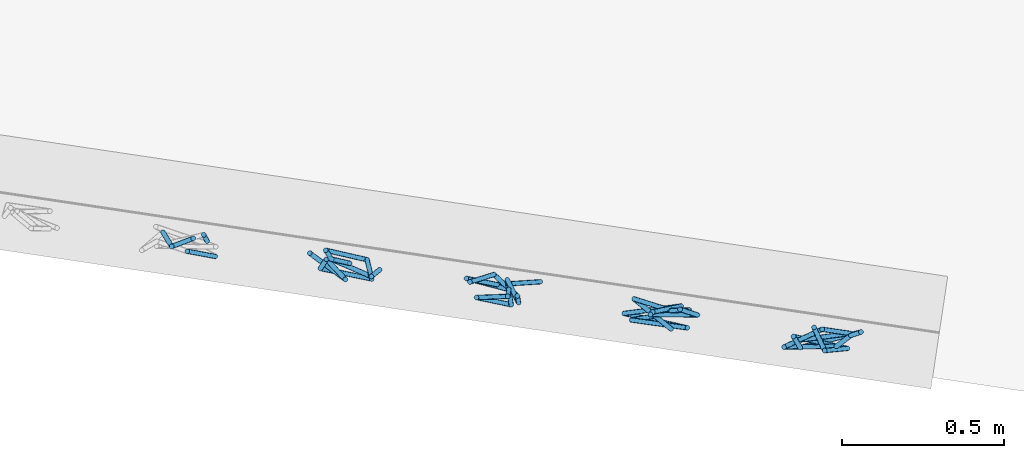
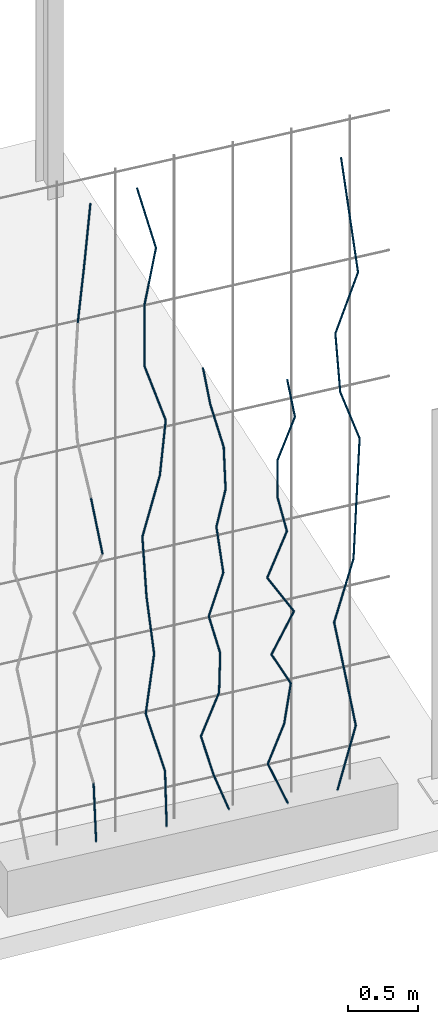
# One storey, part 125 of 142: 48 members, 1 element without a shape of its own.
"""IFC4 building model written with IfcOpenShell, lengths in metres."""

from ifc_helpers import new_model, si_unit, direction, frame, origin_with_axes, place, context, subcontext, project, spatial, circle, extrude, material, material_profile, profile_set, profile_usage, type_object, element, aggregate, save


model = new_model("IFC4")

# Units and contexts
model_context = context("Model", 3, precision=1e-05, world=origin_with_axes(), true_north=direction((0.0, 1.0)))
body_context = subcontext(model_context, "Body", "Model", "MODEL_VIEW")
ifc_project = project(units=[si_unit("LENGTHUNIT", "METRE"), si_unit("AREAUNIT", "SQUARE_METRE"), si_unit("VOLUMEUNIT", "CUBIC_METRE")], contexts=[model_context])

# Site, building, storey
site_placement = place(None, origin_with_axes())
site = spatial("IfcSite", under=ifc_project, at=site_placement, Name="Lares · Rua das Mercês · artigo 4771")
building_placement = place(site_placement, frame((15.0, 9.7, 14.65), z_axis=(0.0, 0.0, 1.0), x_axis=(0.989015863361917, -0.147809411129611, 0.0)))
building = spatial("IfcBuilding", under=site, at=building_placement, Name="Casa Sobreposta")
storey_placement = place(building_placement, origin_with_axes())
storey = spatial("IfcBuildingStorey", under=building, at=storey_placement, Name="00 · Habitação e estacionamento", Elevation=14.65)

# Assembly, members
assembly_placement = place(storey_placement, origin_with_axes())
assembly = element("IfcElementAssembly", 1, at=assembly_placement, inside=storey, Name="Fachada sul e pátio · estrutura e trepadeiras", ObjectType="LIVING_SHADE_TRELLIS", PredefinedType="USERDEFINED")
ifc_material = material(Name="Ramos de trepadeiras", Category="wood")
ifc_material_profile = material_profile(ifc_material, circle(Radius=0.0075))
ifc_profile_set = profile_set([ifc_material_profile], Name="D0.015")
ifc_profile_usage_1 = profile_usage(ifc_profile_set)
member_type = type_object("IfcMemberType", Name="D0.015 / vine_wood", PredefinedType="NOTDEFINED", material=ifc_profile_set)
member_1_placement = place(assembly_placement, frame((29.2283838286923, -1.66457891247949, 0.35), z_axis=(-0.0252439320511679, 0.0344689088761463, 0.999086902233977), x_axis=(0.999681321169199, 0.000870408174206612, 0.0252289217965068)))
member_1 = element("IfcMember", 2, at=member_1_placement, type_object=member_type, material=ifc_profile_usage_1, Name="Trepadeiras · ramo", context=body_context, shape_type="SweptSolid", body=[
    extrude(circle(Radius=0.0075), origin_with_axes(), (0.0, 0.0, 1.0), 0.508202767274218),
])
ifc_profile_usage_2 = profile_usage(ifc_profile_set)
member_2_placement = place(assembly_placement, frame((29.2600635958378, -1.70751102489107, 2.88869364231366), z_axis=(-0.169784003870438, 0.00616562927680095, 0.985462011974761), x_axis=(0.0362906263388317, 0.999341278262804, 0.0)))
member_2 = element("IfcMember", 3, at=member_2_placement, type_object=member_type, material=ifc_profile_usage_2, Name="Trepadeiras · ramo", context=body_context, shape_type="SweptSolid", body=[
    extrude(circle(Radius=0.0075), origin_with_axes(), (0.0, 0.0, 1.0), 0.515229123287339),
])
ifc_profile_usage_3 = profile_usage(ifc_profile_set)
member_3_placement = place(assembly_placement, frame((29.0901985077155, -1.6576110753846, 4.91964855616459), z_axis=(0.0644049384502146, -0.0771905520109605, 0.994933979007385), x_axis=(-0.767832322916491, -0.640650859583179, 0.0)))
member_3 = element("IfcMember", 4, at=member_3_placement, type_object=member_type, material=ifc_profile_usage_3, Name="Trepadeiras · ramo", context=body_context, shape_type="SweptSolid", body=[
    extrude(circle(Radius=0.0075), origin_with_axes(), (0.0, 0.0, 1.0), 0.510324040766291),
])
ifc_profile_usage_4 = profile_usage(ifc_profile_set)
member_4_placement = place(assembly_placement, frame((29.1230658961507, -1.69700326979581, 5.42738728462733), z_axis=(0.120473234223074, 0.0669973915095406, 0.990453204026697), x_axis=(0.486018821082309, -0.873948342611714, 0.0)))
member_4 = element("IfcMember", 5, at=member_4_placement, type_object=member_type, material=ifc_profile_usage_4, Name="Trepadeiras · ramo", context=body_context, shape_type="SweptSolid", body=[
    extrude(circle(Radius=0.0075), origin_with_axes(), (0.0, 0.0, 1.0), 0.512632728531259),
])
ifc_profile_usage_5 = profile_usage(ifc_profile_set)
member_5_placement = place(assembly_placement, frame((29.7668433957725, -1.67324367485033, 0.35), z_axis=(-0.0428066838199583, -0.0470108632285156, 0.997976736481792), x_axis=(-0.739395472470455, 0.673271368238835, 0.0)))
member_5 = element("IfcMember", 6, at=member_5_placement, type_object=member_type, material=ifc_profile_usage_5, Name="Trepadeiras · ramo", context=body_context, shape_type="SweptSolid", body=[
    extrude(circle(Radius=0.0075), origin_with_axes(), (0.0, 0.0, 1.0), 0.512141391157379),
])
ifc_profile_usage_6 = profile_usage(ifc_profile_set)
member_6_placement = place(assembly_placement, frame((29.7449203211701, -1.69731988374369, 0.861105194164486), z_axis=(-0.254221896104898, 0.0667168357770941, 0.96484200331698), x_axis=(0.253839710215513, 0.967246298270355, 0.0)))
member_6 = element("IfcMember", 7, at=member_6_placement, type_object=member_type, material=ifc_profile_usage_6, Name="Trepadeiras · ramo", context=body_context, shape_type="SweptSolid", body=[
    extrude(circle(Radius=0.0075), origin_with_axes(), (0.0, 0.0, 1.0), 0.529729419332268),
])
ifc_profile_usage_7 = profile_usage(ifc_profile_set)
member_7_placement = place(assembly_placement, frame((29.6102515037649, -1.66197801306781, 1.37221038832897), z_axis=(0.121962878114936, -0.00970701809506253, 0.992487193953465), x_axis=(-0.0793390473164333, -0.996847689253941, 0.0)))
member_7 = element("IfcMember", 8, at=member_7_placement, type_object=member_type, material=ifc_profile_usage_7, Name="Trepadeiras · ramo", context=body_context, shape_type="SweptSolid", body=[
    extrude(circle(Radius=0.0075), origin_with_axes(), (0.0, 0.0, 1.0), 0.514974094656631),
])
ifc_profile_usage_8 = profile_usage(ifc_profile_set)
member_8_placement = place(assembly_placement, frame((29.6730592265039, -1.66697687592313, 1.88331558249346), z_axis=(-0.11114571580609, 0.0078114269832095, 0.99377342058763), x_axis=(0.0701080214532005, 0.997539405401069, 9.67018947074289e-19)))
member_8 = element("IfcMember", 9, at=member_8_placement, type_object=member_type, material=ifc_profile_usage_8, Name="Trepadeiras · ramo", context=body_context, shape_type="SweptSolid", body=[
    extrude(circle(Radius=0.0075), origin_with_axes(), (0.0, 0.0, 1.0), 0.514307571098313),
])
ifc_profile_usage_9 = profile_usage(ifc_profile_set)
member_9_placement = place(assembly_placement, frame((29.6158961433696, -1.66295939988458, 2.39442077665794), z_axis=(-0.0428014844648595, 0.0480979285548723, 0.99792515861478), x_axis=(0.747040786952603, 0.664778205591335, 0.0)))
member_9 = element("IfcMember", 10, at=member_9_placement, type_object=member_type, material=ifc_profile_usage_9, Name="Trepadeiras · ramo", context=body_context, shape_type="SweptSolid", body=[
    extrude(circle(Radius=0.0075), origin_with_axes(), (0.0, 0.0, 1.0), 0.512167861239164),
])
ifc_profile_usage_10 = profile_usage(ifc_profile_set)
member_10_placement = place(assembly_placement, frame((29.5939745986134, -1.6383251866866, 2.90552597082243), z_axis=(0.247264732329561, -0.01922655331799, 0.968757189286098), x_axis=(-0.0775229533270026, -0.996990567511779, 0.0)))
member_10 = element("IfcMember", 11, at=member_10_placement, type_object=member_type, material=ifc_profile_usage_10, Name="Trepadeiras · ramo", context=body_context, shape_type="SweptSolid", body=[
    extrude(circle(Radius=0.0075), origin_with_axes(), (0.0, 0.0, 1.0), 0.52758854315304),
])
ifc_profile_usage_11 = profile_usage(ifc_profile_set)
member_11_placement = place(assembly_placement, frame((29.7244286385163, -1.64846889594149, 3.41663116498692), z_axis=(0.0440949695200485, -0.109390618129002, 0.993020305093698), x_axis=(-0.927483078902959, -0.373865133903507, 0.0)))
member_11 = element("IfcMember", 12, at=member_11_placement, type_object=member_type, material=ifc_profile_usage_11, Name="Trepadeiras · ramo", context=body_context, shape_type="SweptSolid", body=[
    extrude(circle(Radius=0.0075), origin_with_axes(), (0.0, 0.0, 1.0), 0.514697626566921),
])
ifc_profile_usage_12 = profile_usage(ifc_profile_set)
member_12_placement = place(assembly_placement, frame((29.7471242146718, -1.70477198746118, 3.9277363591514), z_axis=(-0.300432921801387, 0.0157623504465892, 0.953672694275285), x_axis=(0.0523933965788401, 0.998626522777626, 0.0)))
member_12 = element("IfcMember", 13, at=member_12_placement, type_object=member_type, material=ifc_profile_usage_12, Name="Trepadeiras · ramo", context=body_context, shape_type="SweptSolid", body=[
    extrude(circle(Radius=0.0075), origin_with_axes(), (0.0, 0.0, 1.0), 0.535933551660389),
])
ifc_profile_usage_13 = profile_usage(ifc_profile_set)
member_13_placement = place(assembly_placement, frame((29.5861121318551, -1.69632441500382, 4.43884155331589), z_axis=(0.0273818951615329, 0.0604129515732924, 0.997797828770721), x_axis=(0.910811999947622, -0.412821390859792, 0.0)))
member_13 = element("IfcMember", 14, at=member_13_placement, type_object=member_type, material=ifc_profile_usage_13, Name="Trepadeiras · ramo", context=body_context, shape_type="SweptSolid", body=[
    extrude(circle(Radius=0.0075), origin_with_axes(), (0.0, 0.0, 1.0), 0.51223321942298),
])
ifc_profile_usage_14 = profile_usage(ifc_profile_set)
member_14_placement = place(assembly_placement, frame((29.6001380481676, -1.66537889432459, 4.94994674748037), z_axis=(0.129038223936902, -0.101811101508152, 0.986399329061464), x_axis=(-0.619414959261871, -0.785063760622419, 0.0)))
member_14 = element("IfcMember", 15, at=member_14_placement, type_object=member_type, material=ifc_profile_usage_14, Name="Trepadeiras · ramo", context=body_context, shape_type="SweptSolid", body=[
    extrude(circle(Radius=0.0075), origin_with_axes(), (0.0, 0.0, 1.0), 0.518152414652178),
])
ifc_profile_usage_15 = profile_usage(ifc_profile_set)
member_15_placement = place(assembly_placement, frame((29.6669995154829, -1.71813256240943, 5.46105194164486), z_axis=(-0.227719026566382, 0.120705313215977, 0.966216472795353), x_axis=(0.468336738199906, 0.883550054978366, 0.0)))
member_15 = element("IfcMember", 16, at=member_15_placement, type_object=member_type, material=ifc_profile_usage_15, Name="Trepadeiras · ramo", context=body_context, shape_type="SweptSolid", body=[
    extrude(circle(Radius=0.0075), origin_with_axes(), (0.0, 0.0, 1.0), 0.528975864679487),
])
ifc_profile_usage_16 = profile_usage(ifc_profile_set)
member_16_placement = place(assembly_placement, frame((30.261618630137, -1.63679709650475, 0.35), z_axis=(-0.341987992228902, -0.073852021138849, 0.936797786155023), x_axis=(-0.211083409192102, 0.977468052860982, 0.0)))
member_16 = element("IfcMember", 17, at=member_16_placement, type_object=member_type, material=ifc_profile_usage_16, Name="Trepadeiras · ramo", context=body_context, shape_type="SweptSolid", body=[
    extrude(circle(Radius=0.0075), origin_with_axes(), (0.0, 0.0, 1.0), 0.381675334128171),
])
ifc_profile_usage_17 = profile_usage(ifc_profile_set)
member_17_placement = place(assembly_placement, frame((30.1310902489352, -1.66498459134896, 0.707552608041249), z_axis=(-0.258918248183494, 0.0129089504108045, 0.96581297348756), x_axis=(0.0497953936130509, 0.998759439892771, 0.0)))
member_17 = element("IfcMember", 18, at=member_17_placement, type_object=member_type, material=ifc_profile_usage_17, Name="Trepadeiras · ramo", context=body_context, shape_type="SweptSolid", body=[
    extrude(circle(Radius=0.0075), origin_with_axes(), (0.0, 0.0, 1.0), 0.370208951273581),
])
ifc_profile_usage_18 = profile_usage(ifc_profile_set)
member_18_placement = place(assembly_placement, frame((30.0352363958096, -1.66020558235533, 1.0651052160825), z_axis=(0.350865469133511, -0.0374713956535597, 0.935675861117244), x_axis=(-0.106193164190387, -0.994345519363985, 0.0)))
member_18 = element("IfcMember", 19, at=member_18_placement, type_object=member_type, material=ifc_profile_usage_18, Name="Trepadeiras · ramo", context=body_context, shape_type="SweptSolid", body=[
    extrude(circle(Radius=0.0075), origin_with_axes(), (0.0, 0.0, 1.0), 0.382132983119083),
])
ifc_profile_usage_19 = profile_usage(ifc_profile_set)
member_19_placement = place(assembly_placement, frame((30.1693136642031, -1.67452463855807, 1.42265782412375), z_axis=(0.000383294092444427, -0.0596842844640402, 0.998217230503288), x_axis=(-0.999979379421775, -0.00642189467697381, 0.0)))
member_19 = element("IfcMember", 20, at=member_19_placement, type_object=member_type, material=ifc_profile_usage_19, Name="Trepadeiras · ramo", context=body_context, shape_type="SweptSolid", body=[
    extrude(circle(Radius=0.0075), origin_with_axes(), (0.0, 0.0, 1.0), 0.358191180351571),
])
ifc_profile_usage_20 = profile_usage(ifc_profile_set)
member_20_placement = place(assembly_placement, frame((30.1694509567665, -1.69590302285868, 1.78021043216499), z_axis=(-0.256144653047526, -0.0477982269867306, 0.965455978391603), x_axis=(-0.183439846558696, 0.98303093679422, 0.0)))
member_20 = element("IfcMember", 21, at=member_20_placement, type_object=member_type, material=ifc_profile_usage_20, Name="Trepadeiras · ramo", context=body_context, shape_type="SweptSolid", body=[
    extrude(circle(Radius=0.0075), origin_with_axes(), (0.0, 0.0, 1.0), 0.370345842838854),
])
ifc_profile_usage_21 = profile_usage(ifc_profile_set)
member_21_placement = place(assembly_placement, frame((30.0745888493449, -1.71360489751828, 2.13776304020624), z_axis=(0.291697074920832, -0.0167889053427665, 0.956363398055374), x_axis=(-0.0574608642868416, -0.998347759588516, 0.0)))
member_21 = element("IfcMember", 22, at=member_21_placement, type_object=member_type, material=ifc_profile_usage_21, Name="Trepadeiras · ramo", context=body_context, shape_type="SweptSolid", body=[
    extrude(circle(Radius=0.0075), origin_with_axes(), (0.0, 0.0, 1.0), 0.373866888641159),
])
ifc_profile_usage_22 = profile_usage(ifc_profile_set)
member_22_placement = place(assembly_placement, frame((30.1836447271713, -1.71988171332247, 2.49531564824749), z_axis=(-0.064696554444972, 0.202860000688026, 0.977068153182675), x_axis=(0.95272176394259, 0.303844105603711, 7.96021462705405e-18)))
member_22 = element("IfcMember", 23, at=member_22_placement, type_object=member_type, material=ifc_profile_usage_22, Name="Trepadeiras · ramo", context=body_context, shape_type="SweptSolid", body=[
    extrude(circle(Radius=0.0075), origin_with_axes(), (0.0, 0.0, 1.0), 0.365944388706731),
])
ifc_profile_usage_23 = profile_usage(ifc_profile_set)
member_23_placement = place(assembly_placement, frame((30.1599693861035, -1.64564623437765, 2.85286825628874), z_axis=(0.123292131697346, -0.175486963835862, 0.976730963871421), x_axis=(-0.818242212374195, -0.574873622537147, 0.0)))
member_23 = element("IfcMember", 24, at=member_23_placement, type_object=member_type, material=ifc_profile_usage_23, Name="Trepadeiras · ramo", context=body_context, shape_type="SweptSolid", body=[
    extrude(circle(Radius=0.0075), origin_with_axes(), (0.0, 0.0, 1.0), 0.366070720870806),
])
ifc_profile_usage_24 = profile_usage(ifc_profile_set)
member_24_placement = place(assembly_placement, frame((30.2051030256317, -1.70988687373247, 3.21042086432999), z_axis=(-0.0181704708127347, 0.055018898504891, 0.998319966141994), x_axis=(0.949555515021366, 0.313598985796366, 0.0)))
member_24 = element("IfcMember", 25, at=member_24_placement, type_object=member_type, material=ifc_profile_usage_24, Name="Trepadeiras · ramo", context=body_context, shape_type="SweptSolid", body=[
    extrude(circle(Radius=0.0075), origin_with_axes(), (0.0, 0.0, 1.0), 0.358154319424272),
])
ifc_profile_usage_25 = profile_usage(ifc_profile_set)
member_25_placement = place(assembly_placement, frame((30.1985951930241, -1.69018161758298, 3.56797347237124), z_axis=(-0.219940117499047, 0.14657027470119, 0.964439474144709), x_axis=(0.554552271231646, 0.83214889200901, 0.0)))
member_25 = element("IfcMember", 26, at=member_25_placement, type_object=member_type, material=ifc_profile_usage_25, Name="Trepadeiras · ramo", context=body_context, shape_type="SweptSolid", body=[
    extrude(circle(Radius=0.0075), origin_with_axes(), (0.0, 0.0, 1.0), 0.370736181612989),
])
ifc_profile_usage_26 = profile_usage(ifc_profile_set)
member_26_placement = place(assembly_placement, frame((30.117055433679, -1.63584271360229, 3.92552608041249), z_axis=(-0.189986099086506, -0.0918125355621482, 0.977484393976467), x_axis=(-0.435114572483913, 0.90037509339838, 0.0)))
member_26 = element("IfcMember", 27, at=member_26_placement, type_object=member_type, material=ifc_profile_usage_26, Name="Trepadeiras · ramo", context=body_context, shape_type="SweptSolid", body=[
    extrude(circle(Radius=0.0075), origin_with_axes(), (0.0, 0.0, 1.0), 0.365788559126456),
])
ifc_profile_usage_27 = profile_usage(ifc_profile_set)
member_27_placement = place(assembly_placement, frame((30.6816189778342, -1.72103625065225, 0.35), z_axis=(-0.348194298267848, 0.206069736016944, 0.914492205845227), x_axis=(0.509312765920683, 0.860581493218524, 0.0)))
member_27 = element("IfcMember", 28, at=member_27_placement, type_object=member_type, material=ifc_profile_usage_27, Name="Trepadeiras · ramo", context=body_context, shape_type="SweptSolid", body=[
    extrude(circle(Radius=0.0075), origin_with_axes(), (0.0, 0.0, 1.0), 0.363374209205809),
])
ifc_profile_usage_28 = profile_usage(ifc_profile_set)
member_28_placement = place(assembly_placement, frame((30.5550941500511, -1.64615582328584, 0.682302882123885), z_axis=(0.33475661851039, -0.0529891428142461, 0.940813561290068), x_axis=(-0.156344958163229, -0.987702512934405, 0.0)))
member_28 = element("IfcMember", 29, at=member_28_placement, type_object=member_type, material=ifc_profile_usage_28, Name="Trepadeiras · ramo", context=body_context, shape_type="SweptSolid", body=[
    extrude(circle(Radius=0.0075), origin_with_axes(), (0.0, 0.0, 1.0), 0.353208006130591),
])
ifc_profile_usage_29 = profile_usage(ifc_profile_set)
member_29_placement = place(assembly_placement, frame((30.6733328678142, -1.66487201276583, 1.01460576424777), z_axis=(0.163555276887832, 0.0298620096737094, 0.986082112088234), x_axis=(0.179611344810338, -0.983737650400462, 0.0)))
member_29 = element("IfcMember", 30, at=member_29_placement, type_object=member_type, material=ifc_profile_usage_29, Name="Trepadeiras · ramo", context=body_context, shape_type="SweptSolid", body=[
    extrude(circle(Radius=0.0075), origin_with_axes(), (0.0, 0.0, 1.0), 0.336993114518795),
])
ifc_profile_usage_30 = profile_usage(ifc_profile_set)
member_30_placement = place(assembly_placement, frame((30.7284498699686, -1.6548087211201, 1.34690864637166), z_axis=(-0.452950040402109, -0.150341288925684, 0.87876831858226), x_axis=(-0.315016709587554, 0.949086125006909, 0.0)))
member_30 = element("IfcMember", 31, at=member_30_placement, type_object=member_type, material=ifc_profile_usage_30, Name="Trepadeiras · ramo", context=body_context, shape_type="SweptSolid", body=[
    extrude(circle(Radius=0.0075), origin_with_axes(), (0.0, 0.0, 1.0), 0.378146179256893),
])
ifc_profile_usage_31 = profile_usage(ifc_profile_set)
member_31_placement = place(assembly_placement, frame((30.5571685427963, -1.7116597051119, 1.67921152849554), z_axis=(0.462645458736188, 0.00382392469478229, 0.886535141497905), x_axis=(0.00826506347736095, -0.999965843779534, 0.0)))
member_31 = element("IfcMember", 32, at=member_31_placement, type_object=member_type, material=ifc_profile_usage_31, Name="Trepadeiras · ramo", context=body_context, shape_type="SweptSolid", body=[
    extrude(circle(Radius=0.0075), origin_with_axes(), (0.0, 0.0, 1.0), 0.37483328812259),
])
ifc_profile_usage_32 = profile_usage(ifc_profile_set)
member_32_placement = place(assembly_placement, frame((30.7305834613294, -1.71022637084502, 2.01151441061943), z_axis=(-0.514458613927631, 0.0391758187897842, 0.856619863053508), x_axis=(0.0759297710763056, 0.997113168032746, 0.0)))
member_32 = element("IfcMember", 33, at=member_32_placement, type_object=member_type, material=ifc_profile_usage_32, Name="Trepadeiras · ramo", context=body_context, shape_type="SweptSolid", body=[
    extrude(circle(Radius=0.0075), origin_with_axes(), (0.0, 0.0, 1.0), 0.387923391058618),
])
ifc_profile_usage_33 = profile_usage(ifc_profile_set)
member_33_placement = place(assembly_placement, frame((30.5310129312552, -1.69502915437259, 2.34381729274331), z_axis=(0.452918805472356, 0.129015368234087, 0.882167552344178), x_axis=(0.273955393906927, -0.961742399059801, 0.0)))
member_33 = element("IfcMember", 34, at=member_33_placement, type_object=member_type, material=ifc_profile_usage_33, Name="Trepadeiras · ramo", context=body_context, shape_type="SweptSolid", body=[
    extrude(circle(Radius=0.0075), origin_with_axes(), (0.0, 0.0, 1.0), 0.376689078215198),
])
ifc_profile_usage_34 = profile_usage(ifc_profile_set)
member_34_placement = place(assembly_placement, frame((30.7016224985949, -1.6464304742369, 2.6761201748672), z_axis=(-0.242328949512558, -0.0911697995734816, 0.96590100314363), x_axis=(-0.352127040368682, 0.935952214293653, 0.0)))
member_34 = element("IfcMember", 35, at=member_34_placement, type_object=member_type, material=ifc_profile_usage_34, Name="Trepadeiras · ramo", context=body_context, shape_type="SweptSolid", body=[
    extrude(circle(Radius=0.0075), origin_with_axes(), (0.0, 0.0, 1.0), 0.344034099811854),
])
ifc_profile_usage_35 = profile_usage(ifc_profile_set)
member_35_placement = place(assembly_placement, frame((30.618253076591, -1.67779599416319, 3.00842305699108), z_axis=(-0.018591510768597, -0.0255179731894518, 0.999501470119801), x_axis=(0.999827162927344, -0.000474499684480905, 0.0185854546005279)))
member_35 = element("IfcMember", 36, at=member_35_placement, type_object=member_type, material=ifc_profile_usage_35, Name="Trepadeiras · ramo", context=body_context, shape_type="SweptSolid", body=[
    extrude(circle(Radius=0.0075), origin_with_axes(), (0.0, 0.0, 1.0), 0.332468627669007),
])
ifc_profile_usage_36 = profile_usage(ifc_profile_set)
member_36_placement = place(assembly_placement, frame((30.6120719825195, -1.68627991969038, 3.34072593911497), z_axis=(0.395625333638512, 0.0554248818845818, 0.916738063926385), x_axis=(0.138739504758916, -0.990328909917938, 0.0)))
member_36 = element("IfcMember", 37, at=member_36_placement, type_object=member_type, material=ifc_profile_usage_36, Name="Trepadeiras · ramo", context=body_context, shape_type="SweptSolid", body=[
    extrude(circle(Radius=0.0075), origin_with_axes(), (0.0, 0.0, 1.0), 0.362484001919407),
])
ifc_profile_usage_37 = profile_usage(ifc_profile_set)
member_37_placement = place(assembly_placement, frame((30.7554798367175, -1.66618928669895, 3.67302882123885), z_axis=(-0.164939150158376, 0.0266499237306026, 0.985943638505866), x_axis=(0.159505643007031, 0.987197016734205, 0.0)))
member_37 = element("IfcMember", 38, at=member_37_placement, type_object=member_type, material=ifc_profile_usage_37, Name="Trepadeiras · ramo", context=body_context, shape_type="SweptSolid", body=[
    extrude(circle(Radius=0.0075), origin_with_axes(), (0.0, 0.0, 1.0), 0.337040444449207),
])
ifc_profile_usage_38 = profile_usage(ifc_profile_set)
member_38_placement = place(assembly_placement, frame((31.0679707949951, -1.69918109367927, 0.35), z_axis=(0.30526701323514, 0.0879293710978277, 0.948198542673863), x_axis=(0.276787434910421, -0.960931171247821, 0.0)))
member_38 = element("IfcMember", 39, at=member_38_placement, type_object=member_type, material=ifc_profile_usage_38, Name="Trepadeiras · ramo", context=body_context, shape_type="SweptSolid", body=[
    extrude(circle(Radius=0.0075), origin_with_axes(), (0.0, 0.0, 1.0), 0.525688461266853),
])
ifc_profile_usage_39 = profile_usage(ifc_profile_set)
member_39_placement = place(assembly_placement, frame((31.2284461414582, -1.65295763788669, 0.848457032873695), z_axis=(-0.171477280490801, -0.000359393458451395, 0.985188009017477), x_axis=(-0.00209586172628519, 0.9999978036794, 0.0)))
member_39 = element("IfcMember", 40, at=member_39_placement, type_object=member_type, material=ifc_profile_usage_39, Name="Trepadeiras · ramo", context=body_context, shape_type="SweptSolid", body=[
    extrude(circle(Radius=0.0075), origin_with_axes(), (0.0, 0.0, 1.0), 0.505951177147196),
])
ifc_profile_usage_40 = profile_usage(ifc_profile_set)
member_40_placement = place(assembly_placement, frame((31.1416870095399, -1.65313947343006, 1.34691406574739), z_axis=(-0.209536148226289, -0.138759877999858, 0.967905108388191), x_axis=(-0.552133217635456, 0.833755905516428, 1.33620471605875e-17)))
member_40 = element("IfcMember", 41, at=member_40_placement, type_object=member_type, material=ifc_profile_usage_40, Name="Trepadeiras · ramo", context=body_context, shape_type="SweptSolid", body=[
    extrude(circle(Radius=0.0075), origin_with_axes(), (0.0, 0.0, 1.0), 0.514985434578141),
])
ifc_profile_usage_41 = profile_usage(ifc_profile_set)
member_41_placement = place(assembly_placement, frame((31.0337789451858, -1.72459878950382, 1.84537109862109), z_axis=(0.303896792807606, 0.0499440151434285, 0.951394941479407), x_axis=(0.162169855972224, -0.986762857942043, 0.0)))
member_41 = element("IfcMember", 42, at=member_41_placement, type_object=member_type, material=ifc_profile_usage_41, Name="Trepadeiras · ramo", context=body_context, shape_type="SweptSolid", body=[
    extrude(circle(Radius=0.0075), origin_with_axes(), (0.0, 0.0, 1.0), 0.523922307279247),
])
ifc_profile_usage_42 = profile_usage(ifc_profile_set)
member_42_placement = place(assembly_placement, frame((31.1929972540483, -1.69843200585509, 2.34382813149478), z_axis=(0.0784318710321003, 0.0796506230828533, 0.993732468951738), x_axis=(0.71253711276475, -0.701634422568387, 0.0)))
member_42 = element("IfcMember", 43, at=member_42_placement, type_object=member_type, material=ifc_profile_usage_42, Name="Trepadeiras · ramo", context=body_context, shape_type="SweptSolid", body=[
    extrude(circle(Radius=0.0075), origin_with_axes(), (0.0, 0.0, 1.0), 0.501600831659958),
])
ifc_profile_usage_43 = profile_usage(ifc_profile_set)
member_43_placement = place(assembly_placement, frame((31.2323387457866, -1.6584791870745, 2.84228516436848), z_axis=(0.0579605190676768, 0.0295137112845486, 0.997882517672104), x_axis=(0.453762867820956, -0.891122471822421, 0.0)))
member_43 = element("IfcMember", 44, at=member_43_placement, type_object=member_type, material=ifc_profile_usage_43, Name="Trepadeiras · ramo", context=body_context, shape_type="SweptSolid", body=[
    extrude(circle(Radius=0.0075), origin_with_axes(), (0.0, 0.0, 1.0), 0.499514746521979),
])
ifc_profile_usage_44 = profile_usage(ifc_profile_set)
member_44_placement = place(assembly_placement, frame((31.261290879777, -1.64373665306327, 3.34074219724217), z_axis=(-0.333224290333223, -0.139669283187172, 0.932445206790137), x_axis=(-0.386562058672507, 0.922263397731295, 0.0)))
member_44 = element("IfcMember", 45, at=member_44_placement, type_object=member_type, material=ifc_profile_usage_44, Name="Trepadeiras · ramo", context=body_context, shape_type="SweptSolid", body=[
    extrude(circle(Radius=0.0075), origin_with_axes(), (0.0, 0.0, 1.0), 0.534569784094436),
])
ifc_profile_usage_45 = profile_usage(ifc_profile_set)
member_45_placement = place(assembly_placement, frame((31.0831592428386, -1.71839963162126, 3.83919923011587), z_axis=(-0.0511214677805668, 0.0604637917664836, 0.99686043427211), x_axis=(0.763636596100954, 0.645646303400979, 0.0)))
member_45 = element("IfcMember", 46, at=member_45_placement, type_object=member_type, material=ifc_profile_usage_45, Name="Trepadeiras · ramo", context=body_context, shape_type="SweptSolid", body=[
    extrude(circle(Radius=0.0075), origin_with_axes(), (0.0, 0.0, 1.0), 0.500026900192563),
])
ifc_profile_usage_46 = profile_usage(ifc_profile_set)
member_46_placement = place(assembly_placement, frame((31.0575971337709, -1.68816610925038, 4.33765626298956), z_axis=(0.321908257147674, -0.0224785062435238, 0.946503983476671), x_axis=(-0.0696592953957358, -0.997570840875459, 0.0)))
member_46 = element("IfcMember", 47, at=member_46_placement, type_object=member_type, material=ifc_profile_usage_46, Name="Trepadeiras · ramo", context=body_context, shape_type="SweptSolid", body=[
    extrude(circle(Radius=0.0075), origin_with_axes(), (0.0, 0.0, 1.0), 0.526629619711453),
])
ifc_profile_usage_47 = profile_usage(ifc_profile_set)
member_47_placement = place(assembly_placement, frame((31.2271235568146, -1.70000395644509, 4.83611329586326), z_axis=(-0.135139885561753, -0.033668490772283, 0.990254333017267), x_axis=(-0.241748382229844, 0.970338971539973, 0.0)))
member_47 = element("IfcMember", 48, at=member_47_placement, type_object=member_type, material=ifc_profile_usage_47, Name="Trepadeiras · ramo", context=body_context, shape_type="SweptSolid", body=[
    extrude(circle(Radius=0.0075), origin_with_axes(), (0.0, 0.0, 1.0), 0.503362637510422),
])
ifc_profile_usage_48 = profile_usage(ifc_profile_set)
member_48_placement = place(assembly_placement, frame((31.1590991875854, -1.71695141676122, 5.33457032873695), z_axis=(-0.0851428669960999, 0.130646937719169, 0.987766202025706), x_axis=(0.837791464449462, 0.545990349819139, 0.0)))
member_48 = element("IfcMember", 49, at=member_48_placement, type_object=member_type, material=ifc_profile_usage_48, Name="Trepadeiras · ramo", context=body_context, shape_type="SweptSolid", body=[
    extrude(circle(Radius=0.0075), origin_with_axes(), (0.0, 0.0, 1.0), 0.504630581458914),
])
aggregate(assembly, [member_1, member_2, member_3, member_4, member_5, member_6, member_7, member_8, member_9, member_10, member_11, member_12, member_13, member_14, member_15, member_16, member_17, member_18, member_19, member_20, member_21, member_22, member_23, member_24, member_25, member_26, member_27, member_28, member_29, member_30, member_31, member_32, member_33, member_34, member_35, member_36, member_37, member_38, member_39, member_40, member_41, member_42, member_43, member_44, member_45, member_46, member_47, member_48])

save(model, "model.ifc")
